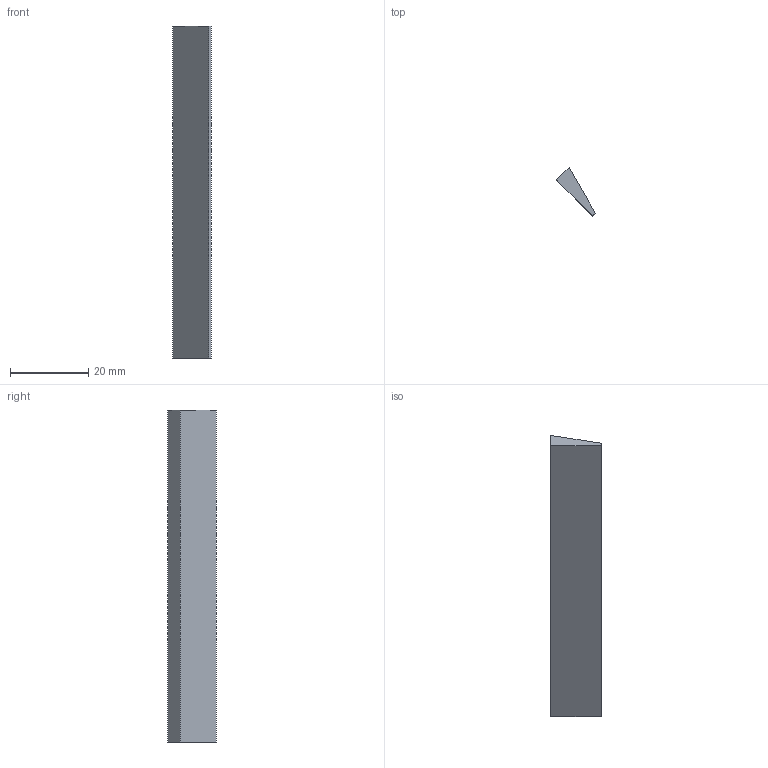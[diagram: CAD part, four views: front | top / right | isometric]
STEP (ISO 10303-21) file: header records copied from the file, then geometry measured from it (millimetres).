
FILE_DESCRIPTION(('FreeCAD Model'),'2;1');
FILE_NAME('Open CASCADE Shape Model','2026-11-05T18:53:51',('FreeCAD'),( 'FreeCAD'),'Open CASCADE STEP processor 7.8','FreeCAD','Unknown');
FILE_SCHEMA(('AUTOMOTIVE_DESIGN { 1 0 10303 214 1 1 1 1 }'));
Length unit declared in the file: millimetre
Products named in the file (1): Open CASCADE STEP translator 7.8 21
Bounding box: 9.9 x 12.37 x 85 mm (x, y, z)
Volume: 3038.7 mm3; surface area: 2788.3 mm2
Topology: 1 solids, 1 shells, 6 faces, 12 edges, 8 vertices
Faces by surface type: plane 6
Entity records: 166 total; most frequent: CARTESIAN_POINT 27, DIRECTION 26, ORIENTED_EDGE 24, EDGE_CURVE 12, LINE 12, VECTOR 12, VERTEX_POINT 8, AXIS2_PLACEMENT_3D 7
